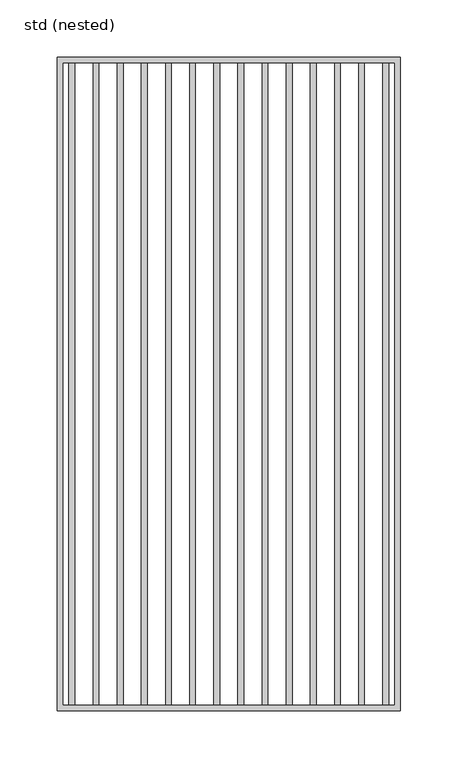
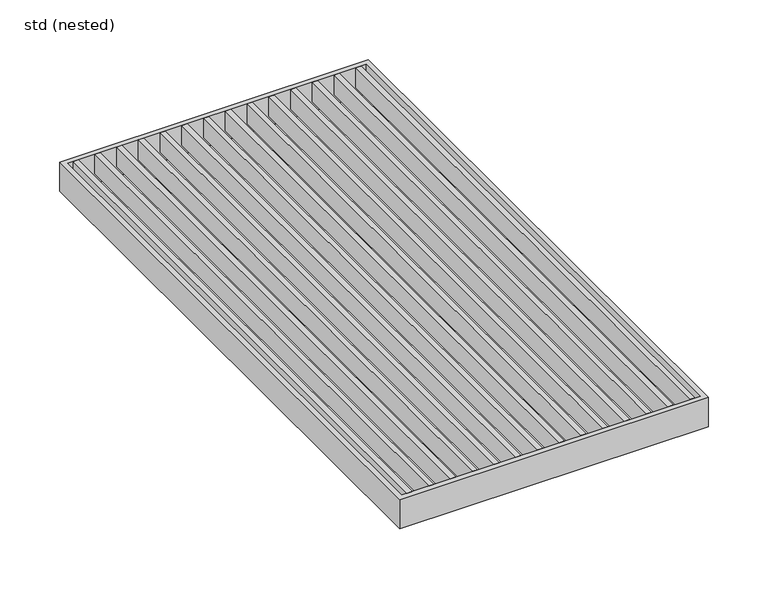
"""IFC4 building model written with IfcOpenShell, lengths in millimetres: sanitary terminal geometry, ZZZ_do not use_PF_ST_UN_grating for box channel_ACO : std (nested)."""

from ifc_helpers import new_model, si_unit, frame, origin, place, context, project, spatial, polyline, outline, extrude, source, transform, mapped, element, save


def std_nested_37ddd1c3(model_context):
    return source(origin(), model_context, "Body", "SweptSolid", [
        extrude(outline(polyline([(-139.0, 279.0), (-134.0, 279.0), (-134.0, -279.0), (-139.0, -279.0), (-139.0, 279.0)])), frame((0.0, 0.0, -20.0), z_axis=(0.0, 0.0, 1.0), x_axis=(1.0, 0.0, 0.0)), (0.0, 0.0, 1.0), 20.0),
        extrude(outline(polyline([(-118.0, 279.0), (-113.0, 279.0), (-113.0, -279.0), (-118.0, -279.0), (-118.0, 279.0)])), frame((0.0, 0.0, -20.0), z_axis=(0.0, 0.0, 1.0), x_axis=(1.0, 0.0, 0.0)), (0.0, 0.0, 1.0), 20.0),
        extrude(outline(polyline([(-97.0, 279.0), (-92.0, 279.0), (-92.0, -279.0), (-97.0, -279.0), (-97.0, 279.0)])), frame((0.0, 0.0, -20.0), z_axis=(0.0, 0.0, 1.0), x_axis=(1.0, 0.0, 0.0)), (0.0, 0.0, 1.0), 20.0),
        extrude(outline(polyline([(-76.0, 279.0), (-71.0, 279.0), (-71.0, -279.0), (-76.0, -279.0), (-76.0, 279.0)])), frame((0.0, 0.0, -20.0), z_axis=(0.0, 0.0, 1.0), x_axis=(1.0, 0.0, 0.0)), (0.0, 0.0, 1.0), 20.0),
        extrude(outline(polyline([(-55.0, 279.0), (-50.0, 279.0), (-50.0, -279.0), (-55.0, -279.0), (-55.0, 279.0)])), frame((0.0, 0.0, -20.0), z_axis=(0.0, 0.0, 1.0), x_axis=(1.0, 0.0, 0.0)), (0.0, 0.0, 1.0), 20.0),
        extrude(outline(polyline([(-34.0, 279.0), (-29.0, 279.0), (-29.0, -279.0), (-34.0, -279.0), (-34.0, 279.0)])), frame((0.0, 0.0, -20.0), z_axis=(0.0, 0.0, 1.0), x_axis=(1.0, 0.0, 0.0)), (0.0, 0.0, 1.0), 20.0),
        extrude(outline(polyline([(139.0, 279.0), (139.0, -279.0), (134.0, -279.0), (134.0, 279.0), (139.0, 279.0)])), frame((0.0, 0.0, -20.0), z_axis=(0.0, 0.0, 1.0), x_axis=(1.0, 0.0, 0.0)), (0.0, 0.0, 1.0), 20.0),
        extrude(outline(polyline([(118.0, 279.0), (118.0, -279.0), (113.0, -279.0), (113.0, 279.0), (118.0, 279.0)])), frame((0.0, 0.0, -20.0), z_axis=(0.0, 0.0, 1.0), x_axis=(1.0, 0.0, 0.0)), (0.0, 0.0, 1.0), 20.0),
        extrude(outline(polyline([(97.0, 279.0), (97.0, -279.0), (92.0, -279.0), (92.0, 279.0), (97.0, 279.0)])), frame((0.0, 0.0, -20.0), z_axis=(0.0, 0.0, 1.0), x_axis=(1.0, 0.0, 0.0)), (0.0, 0.0, 1.0), 20.0),
        extrude(outline(polyline([(76.0, 279.0), (76.0, -279.0), (71.0, -279.0), (71.0, 279.0), (76.0, 279.0)])), frame((0.0, 0.0, -20.0), z_axis=(0.0, 0.0, 1.0), x_axis=(1.0, 0.0, 0.0)), (0.0, 0.0, 1.0), 20.0),
        extrude(outline(polyline([(55.0, 279.0), (55.0, -279.0), (50.0, -279.0), (50.0, 279.0), (55.0, 279.0)])), frame((0.0, 0.0, -20.0), z_axis=(0.0, 0.0, 1.0), x_axis=(1.0, 0.0, 0.0)), (0.0, 0.0, 1.0), 20.0),
        extrude(outline(polyline([(34.0, 279.0), (34.0, -279.0), (29.0, -279.0), (29.0, 279.0), (34.0, 279.0)])), frame((0.0, 0.0, -20.0), z_axis=(0.0, 0.0, 1.0), x_axis=(1.0, 0.0, 0.0)), (0.0, 0.0, 1.0), 20.0),
        extrude(outline(polyline([(-13.0, 279.0), (-8.0, 279.0), (-8.0, -279.0), (-13.0, -279.0), (-13.0, 279.0)])), frame((0.0, 0.0, -20.0), z_axis=(0.0, 0.0, 1.0), x_axis=(1.0, 0.0, 0.0)), (0.0, 0.0, 1.0), 20.0),
        extrude(outline(polyline([(13.0, 279.0), (13.0, -279.0), (8.0, -279.0), (8.0, 279.0), (13.0, 279.0)])), frame((0.0, 0.0, -20.0), z_axis=(0.0, 0.0, 1.0), x_axis=(1.0, 0.0, 0.0)), (0.0, 0.0, 1.0), 20.0),
        extrude(outline(polyline([(149.0, 284.0), (149.0, -284.0), (-149.0, -284.0), (-149.0, 284.0), (149.0, 284.0)]), holes=[polyline([(144.0, 279.0), (-144.0, 279.0), (-144.0, -279.0), (144.0, -279.0), (144.0, 279.0)])]), frame((0.0, 0.0, -30.0), z_axis=(0.0, 0.0, 1.0), x_axis=(1.0, 0.0, 0.0)), (0.0, 0.0, 1.0), 30.0),
    ])


if __name__ == "__main__":
    model = new_model("IFC4")
    model_context = context("Model", 3, world=origin())
    ifc_project = project(units=[si_unit("LENGTHUNIT", "METRE", prefix="MILLI")], contexts=[model_context])
    site = spatial("IfcSite", under=ifc_project)
    building = spatial("IfcBuilding", under=site)
    placement = place(None, origin())
    std_nested_shape = std_nested_37ddd1c3(model_context)
    element("IfcSanitaryTerminal", 1, ObjectType="ZZZ_do not use_PF_ST_UN_grating for box channel_ACO : std (nested)", at=placement, inside=building, context=model_context, shape_type="MappedRepresentation", body=[
        mapped(std_nested_shape, transform((0.0, 0.0, 0.0), x_axis=(1.0, 0.0, 0.0), y_axis=(0.0, 1.0, 0.0), z_axis=(0.0, 0.0, 1.0))),
    ])
    save(model, "model.ifc")
